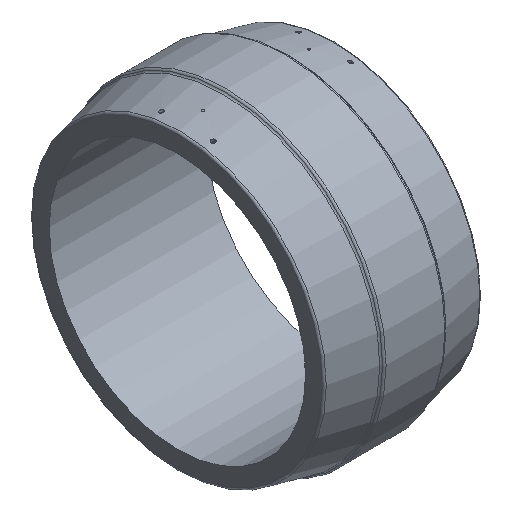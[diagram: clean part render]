
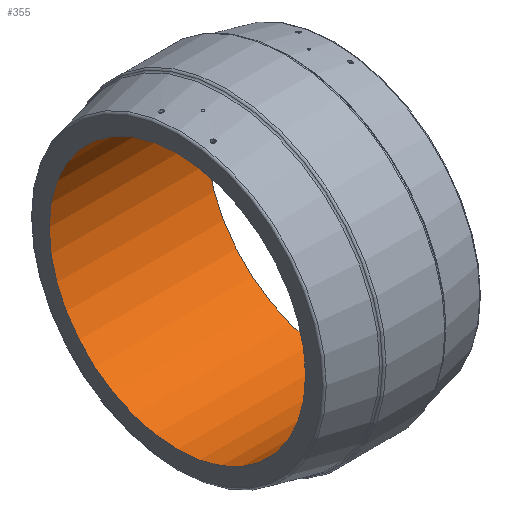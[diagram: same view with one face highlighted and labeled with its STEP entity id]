
A CAD part, isometric view. The second image highlights one B-rep face of the part: STEP entity #355.
In plain terms, the highlighted cylindrical face has radius 450 mm (diameter 900 mm), a full revolution.
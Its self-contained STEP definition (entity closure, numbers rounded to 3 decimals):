
#52=CIRCLE('',#413,450.);
#53=CIRCLE('',#414,450.);
#95=ORIENTED_EDGE('',*,*,#148,.F.);
#96=ORIENTED_EDGE('',*,*,#149,.T.);
#148=EDGE_CURVE('',#180,#180,#52,.T.);
#149=EDGE_CURVE('',#181,#181,#53,.T.);
#180=VERTEX_POINT('',#691);
#181=VERTEX_POINT('',#693);
#229=EDGE_LOOP('',(#95));
#230=EDGE_LOOP('',(#96));
#293=FACE_BOUND('',#229,.T.);
#294=FACE_BOUND('',#230,.T.);
#335=CYLINDRICAL_SURFACE('',#412,450.);
#355=ADVANCED_FACE('',(#293,#294),#335,.F.);
#412=AXIS2_PLACEMENT_3D('',#689,#499,#500);
#413=AXIS2_PLACEMENT_3D('',#690,#501,#502);
#414=AXIS2_PLACEMENT_3D('',#692,#503,#504);
#499=DIRECTION('',(-1.,0.,0.));
#500=DIRECTION('',(0.,0.,1.));
#501=DIRECTION('',(-1.,0.,0.));
#502=DIRECTION('',(0.,0.,1.));
#503=DIRECTION('',(-1.,0.,0.));
#504=DIRECTION('',(0.,0.,1.));
#689=CARTESIAN_POINT('',(-60.,0.,0.));
#690=CARTESIAN_POINT('',(276.,0.,0.));
#691=CARTESIAN_POINT('',(276.,0.,450.));
#692=CARTESIAN_POINT('',(-276.,0.,0.));
#693=CARTESIAN_POINT('',(-276.,0.,450.));
